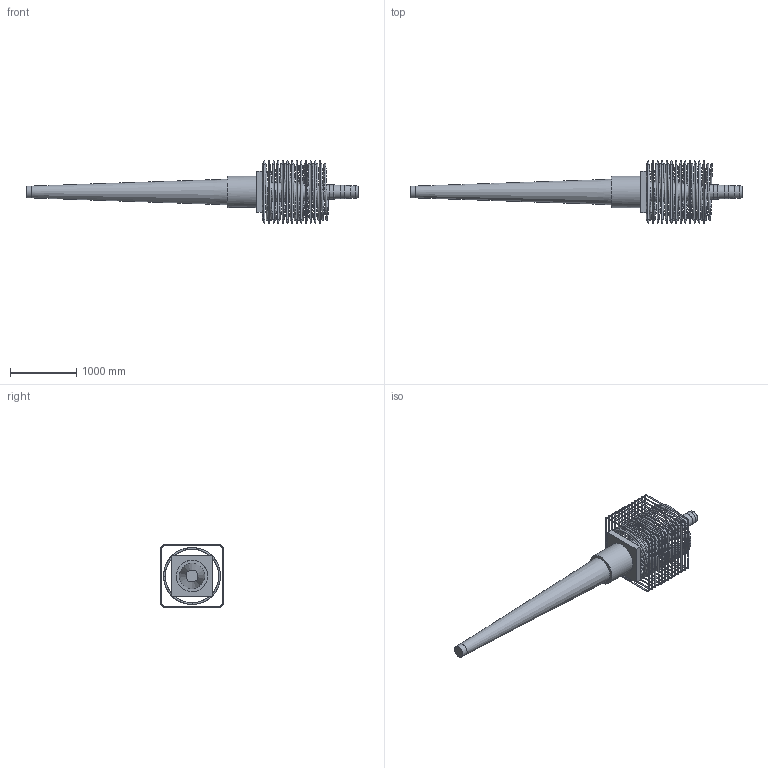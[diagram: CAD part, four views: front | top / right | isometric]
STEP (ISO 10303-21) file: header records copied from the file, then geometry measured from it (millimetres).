
FILE_DESCRIPTION(/* description */ (''),/* implementation_level */ '2;1');
FILE_NAME(/* name */ 'Z:\04 Publications\05 Give-out\BBR\6_3D_Models\BBR VT CONA CMI\BBR VT CONA CMI SP\06106\BBR VT CONA CMI SP 6106_Coupler H Assembly_CS-34,28.stp',/* time_stamp */ '2017-05-09T10:40:16+02:00',/* author */ ('IP'),/* organization */ (''),/* preprocessor_version */ 'ST-DEVELOPER v16.1',/* originating_system */ 'Autodesk Inventor 2016',/* authorisation */ '');
FILE_SCHEMA (('AUTOMOTIVE_DESIGN { 1 0 10303 214 3 1 1 }'));
Products named in the file (1): BBR VT CONA CMI SP 6106_Coupler H Assembly_CS-34,28
Bounding box: 5019 x 940 x 940 mm (x, y, z)
Volume: 408851446.8 mm3; surface area: 11153594.2 mm2
Topology: 15 solids, 15 shells, 836 faces, 2184 edges, 1418 vertices
Faces by surface type: bspline 394, plane 258, cylinder 123, torus 59, cone 2
Full cylindrical faces by diameter (mm): 16 x52, 180 x1, 187.815 x1, 201.327 x1, 214.839 x1, 228.351 x1, 241.863 x1, 475 x1
Entity records: 42279 total; most frequent: CARTESIAN_POINT 24378, ORIENTED_EDGE 4128, DIRECTION 2516, EDGE_CURVE 2061, VERTEX_POINT 1415, EDGE_LOOP 1027, LINE 912, VECTOR 912
